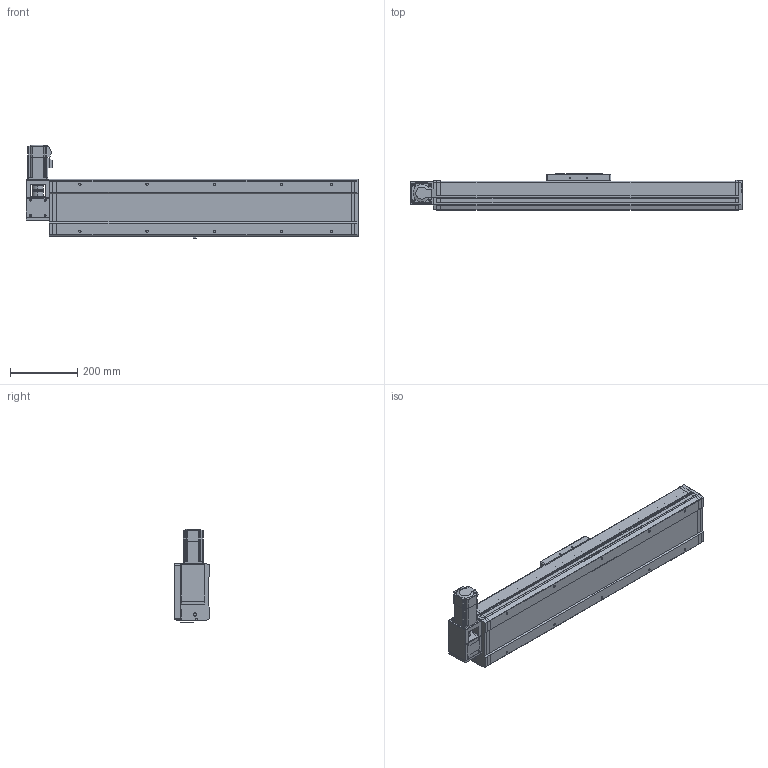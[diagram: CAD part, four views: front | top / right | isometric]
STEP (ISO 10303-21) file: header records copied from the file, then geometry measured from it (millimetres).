
FILE_DESCRIPTION((''),'2;1');
FILE_NAME('170-TZJ3FL-S600_ASM','2015-12-04T',('lenovo'),(''),'PRO/ENGINEER BY PARAMETRIC TECHNOLOGY CORPORATION, 2010280','PRO/ENGINEER BY PARAMETRIC TECHNOLOGY CORPORATION, 2010280','');
FILE_SCHEMA(('CONFIG_CONTROL_DESIGN'));
Length unit declared in the file: millimetre
Products named in the file (5): 170-TJFL-DZ; 170-HK; 170-HDB-01; 170-TZJ3FL-DJZ; 170-TZJ3FL-S600_ASM
Assembly tree (4 placements, depth 2):
  170-TZJ3FL-S600_ASM
    170-TJFL-DZ
    170-HK
    170-HDB-01
    170-TZJ3FL-DJZ
Bounding box: 989 x 107 x 278.5 mm (x, y, z)
Volume: 7696058.9 mm3; surface area: 1200430.4 mm2
Topology: 6 solids, 30 shells, 1474 faces, 4009 edges, 2673 vertices
Faces by surface type: plane 790, cylinder 543, cone 113, torus 28
Entity records: 47259 total; most frequent: CARTESIAN_POINT 8439, DIRECTION 8292, ORIENTED_EDGE 8018, EDGE_CURVE 4009, AXIS2_PLACEMENT_3D 2842, VERTEX_POINT 2673, VECTOR 2608, LINE 2608
